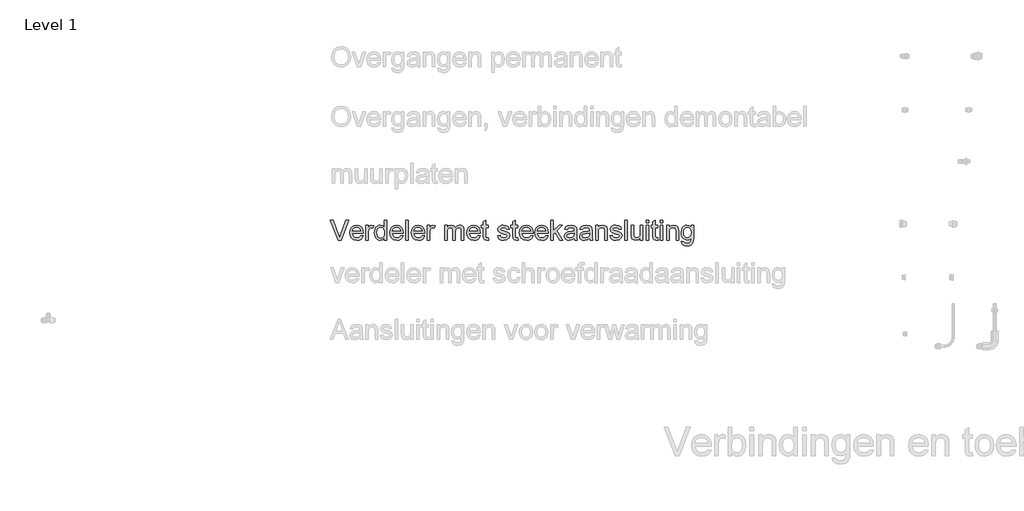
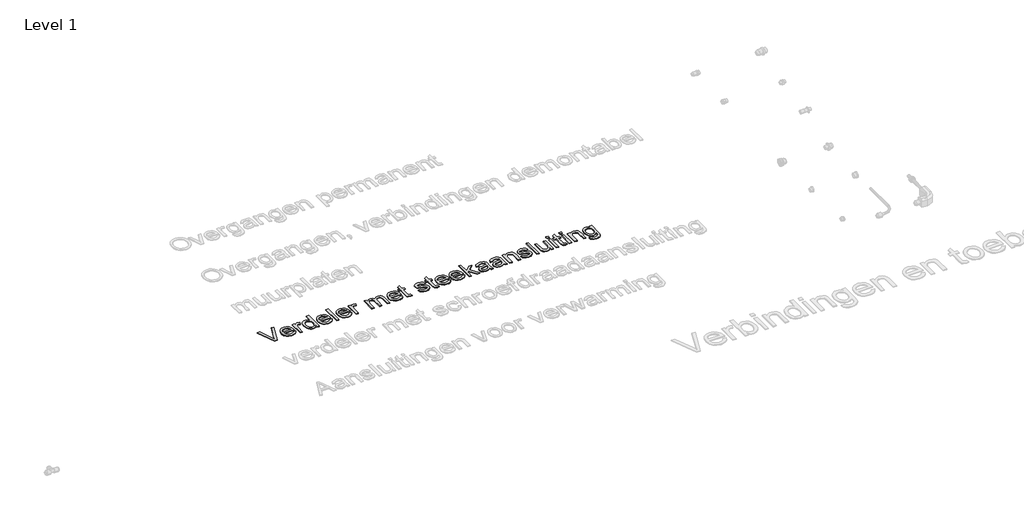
# One storey, part 6 of 9: 1 proxy.
"""IFC4 building model written with IfcOpenShell, lengths in millimetres."""

from ifc_helpers import new_model, si_unit, origin, origin_with_axes, place, context, project, spatial, polyline, outline, extrude, element, save

model = new_model("IFC4")

# Units and contexts
model_context = context("Model", 3, world=origin())
ifc_project = project(units=[si_unit("LENGTHUNIT", "METRE", prefix="MILLI")], contexts=[model_context])

# Site, building, storey
site = spatial("IfcSite", under=ifc_project)
building = spatial("IfcBuilding", under=site)
storey = spatial("IfcBuildingStorey", under=building, Name="Level 1", Elevation=0.0)

# Proxy
placement = place(None, origin())
element("IfcBuildingElementProxy", 1, Name="small", ObjectType="small", at=placement, inside=storey, context=model_context, shape_type="SweptSolid", body=[
    extrude(outline(polyline([(3504.737123, 4372.8496905), (3448.7700088, 4513.4885247), (3467.5859466, 4513.4885247), (3505.0461439, 4412.164013), (3512.6343232, 4389.3308039), (3520.1194955, 4412.164013), (3557.6826998, 4513.4885247), (3576.4986376, 4513.4885247), (3522.9006834, 4372.8496905), (3504.737123, 4372.8496905)])), origin_with_axes(), (0.0, 0.0, 1.0), 5.0),
    extrude(outline(polyline([(3662.9558115, 4403.6144355), (3680.1923093, 4401.4169537), (3673.9818481, 4388.429493), (3664.0717203, 4378.7210871), (3650.6851076, 4372.6694283), (3634.0451918, 4370.6522087), (3613.4180483, 4374.1329855), (3597.5463928, 4384.5753159), (3587.4259591, 4401.3010708), (3584.0524812, 4423.6321211), (3587.4602948, 4446.7142637), (3597.6837354, 4463.9765132), (3613.3407931, 4474.7407404), (3633.0494579, 4478.3288161), (3652.1443728, 4474.7493243), (3667.4022786, 4464.0108489), (3677.4068294, 4446.782935), (3680.7416797, 4423.7351281), (3680.6386728, 4418.996808), (3601.6323355, 4418.996808), (3604.6753327, 4405.837669), (3611.7441853, 4396.1635988), (3621.9461661, 4390.2149469), (3634.3885483, 4388.232063), (3651.6250461, 4391.9059778), (3662.9558115, 4403.6144355)]), holes=[polyline([(3601.6323355, 4436.5766622), (3663.1618254, 4436.5766622), (3656.1230166, 4452.5084052), (3645.8738242, 4458.6888227), (3632.9807866, 4460.7489619), (3621.1306944, 4459.1051425), (3611.3321574, 4454.1736843), (3604.5208223, 4446.48679), (3601.6323355, 4436.5766622)])]), origin_with_axes(), (0.0, 0.0, 1.0), 5.0),
    extrude(outline(polyline([(3698.321534, 4372.8496905), (3698.321534, 4476.1313344), (3713.7039065, 4476.1313344), (3713.7039065, 4460.8519688), (3724.6226441, 4474.9295865), (3735.610053, 4478.3288161), (3753.2585786, 4472.903783), (3747.387182, 4457.1437183), (3735.0263469, 4460.7489619), (3725.0861754, 4457.2810609), (3718.7512475, 4447.6670781), (3715.9013883, 4427.1343577), (3715.9013883, 4372.8496905), (3698.321534, 4372.8496905)])), origin_with_axes(), (0.0, 0.0, 1.0), 5.0),
    extrude(outline(polyline([(3827.9729593, 4372.8496905), (3827.9729593, 4389.4338108), (3816.3417569, 4375.3476092), (3800.2640874, 4370.6522087), (3788.8989863, 4372.3518235), (3778.4952835, 4377.450668), (3769.6881885, 4385.5925097), (3763.112911, 4396.4211162), (3757.6535422, 4424.3875055), (3762.6837153, 4452.3710626), (3768.9671398, 4463.4700624), (3777.7570669, 4471.6333638), (3788.3882435, 4476.6549531), (3800.1954161, 4478.3288161), (3816.4018443, 4473.5389926), (3827.9729593, 4461.0923184), (3827.9729593, 4513.4885247), (3845.5528136, 4513.4885247), (3845.5528136, 4372.8496905), (3827.9729593, 4372.8496905)]), holes=[polyline([(3775.2333965, 4424.4561768), (3777.2162804, 4408.5544775), (3783.1649323, 4397.2451719), (3791.8089329, 4390.4853402), (3801.8778631, 4388.232063), (3811.9425013, 4390.3823332), (3820.3676122, 4396.833144), (3826.0716225, 4407.7046701), (3827.9729593, 4423.1170863), (3826.0372869, 4439.967308), (3820.2302696, 4451.6500138), (3811.5905609, 4458.4742249), (3801.1568144, 4460.7489619), (3790.9848772, 4458.5643559), (3782.6498975, 4452.0105382), (3777.0875217, 4440.752736), (3775.2333965, 4424.4561768)])]), origin_with_axes(), (0.0, 0.0, 1.0), 5.0),
    extrude(outline(polyline([(3944.23348, 4403.6144355), (3961.4699777, 4401.4169537), (3955.2595165, 4388.429493), (3945.3493887, 4378.7210871), (3931.962776, 4372.6694283), (3915.3228602, 4370.6522087), (3894.6957168, 4374.1329855), (3878.8240612, 4384.5753159), (3868.7036275, 4401.3010708), (3865.3301496, 4423.6321211), (3868.7379632, 4446.7142637), (3878.9614038, 4463.9765132), (3894.6184615, 4474.7407404), (3914.3271263, 4478.3288161), (3933.4220412, 4474.7493243), (3948.679947, 4464.0108489), (3958.6844979, 4446.782935), (3962.0193481, 4423.7351281), (3961.9163412, 4418.996808), (3882.9100039, 4418.996808), (3885.9530011, 4405.837669), (3893.0218537, 4396.1635988), (3903.2238345, 4390.2149469), (3915.6662168, 4388.232063), (3932.9027145, 4391.9059778), (3944.23348, 4403.6144355)]), holes=[polyline([(3882.9100039, 4436.5766622), (3944.4394939, 4436.5766622), (3937.400685, 4452.5084052), (3927.1514926, 4458.6888227), (3914.258455, 4460.7489619), (3902.4083628, 4459.1051425), (3892.6098258, 4454.1736843), (3885.7984907, 4446.48679), (3882.9100039, 4436.5766622)])]), origin_with_axes(), (0.0, 0.0, 1.0), 5.0),
    extrude(outline(polyline([(3979.5992024, 4372.8496905), (3979.5992024, 4513.4885247), (3997.1790567, 4513.4885247), (3997.1790567, 4372.8496905), (3979.5992024, 4372.8496905)])), origin_with_axes(), (0.0, 0.0, 1.0), 5.0),
    extrude(outline(polyline([(4095.8597231, 4403.6144355), (4113.0962208, 4401.4169537), (4106.8857596, 4388.429493), (4096.9756318, 4378.7210871), (4083.5890191, 4372.6694283), (4066.9491034, 4370.6522087), (4046.3219599, 4374.1329855), (4030.4503043, 4384.5753159), (4020.3298707, 4401.3010708), (4016.9563928, 4423.6321211), (4020.3642063, 4446.7142637), (4030.587647, 4463.9765132), (4046.2447047, 4474.7407404), (4065.9533694, 4478.3288161), (4085.0482844, 4474.7493243), (4100.3061901, 4464.0108489), (4110.310741, 4446.782935), (4113.6455913, 4423.7351281), (4113.5425843, 4418.996808), (4034.536247, 4418.996808), (4037.5792443, 4405.837669), (4044.6480968, 4396.1635988), (4054.8500777, 4390.2149469), (4067.2924599, 4388.232063), (4084.5289576, 4391.9059778), (4095.8597231, 4403.6144355)]), holes=[polyline([(4034.536247, 4436.5766622), (4096.065737, 4436.5766622), (4089.0269282, 4452.5084052), (4078.7777358, 4458.6888227), (4065.8846981, 4460.7489619), (4054.0346059, 4459.1051425), (4044.236069, 4454.1736843), (4037.4247338, 4446.48679), (4034.536247, 4436.5766622)])]), origin_with_axes(), (0.0, 0.0, 1.0), 5.0),
    extrude(outline(polyline([(4131.2254456, 4372.8496905), (4131.2254456, 4476.1313344), (4146.607818, 4476.1313344), (4146.607818, 4460.8519688), (4157.5265557, 4474.9295865), (4168.5139646, 4478.3288161), (4186.1624902, 4472.903783), (4180.2910935, 4457.1437183), (4167.9302585, 4460.7489619), (4157.990087, 4457.2810609), (4151.655159, 4447.6670781), (4148.8052998, 4427.1343577), (4148.8052998, 4372.8496905), (4131.2254456, 4372.8496905)])), origin_with_axes(), (0.0, 0.0, 1.0), 5.0),
    extrude(outline(polyline([(4252.0869437, 4372.8496905), (4252.0869437, 4476.1313344), (4269.666798, 4476.1313344), (4269.666798, 4459.1351862), (4281.7529478, 4473.0582934), (4298.9551099, 4478.3288161), (4316.5692998, 4472.9552865), (4326.2519539, 4457.8991027), (4339.9690473, 4473.2213878), (4357.2913841, 4478.3288161), (4370.5063185, 4476.2042976), (4380.2791037, 4469.830742), (4386.3178867, 4459.0364712), (4388.3308143, 4443.6498067), (4388.3308143, 4372.8496905), (4370.7509601, 4372.8496905), (4370.7509601, 4436.0959631), (4369.1200166, 4450.7744547), (4363.2142843, 4458.0021096), (4353.1711058, 4460.7489619), (4343.6472541, 4458.9892596), (4335.8831046, 4453.710153), (4330.7198808, 4444.5511176), (4328.9988062, 4431.1516291), (4328.9988062, 4372.8496905), (4311.4189519, 4372.8496905), (4311.4189519, 4438.0530953), (4307.350177, 4455.0835791), (4301.9809393, 4459.3326162), (4294.0107759, 4460.7489619), (4280.9975634, 4456.97204), (4272.3449789, 4445.9159598), (4269.666798, 4424.9368759), (4269.666798, 4372.8496905), (4252.0869437, 4372.8496905)])), origin_with_axes(), (0.0, 0.0, 1.0), 5.0),
    extrude(outline(polyline([(4487.0114807, 4403.6144355), (4504.2479785, 4401.4169537), (4498.0375173, 4388.429493), (4488.1273894, 4378.7210871), (4474.7407768, 4372.6694283), (4458.100861, 4370.6522087), (4437.4737175, 4374.1329855), (4421.602062, 4384.5753159), (4411.4816283, 4401.3010708), (4408.1081504, 4423.6321211), (4411.515964, 4446.7142637), (4421.7394046, 4463.9765132), (4437.3964623, 4474.7407404), (4457.1051271, 4478.3288161), (4476.200042, 4474.7493243), (4491.4579478, 4464.0108489), (4501.4624986, 4446.782935), (4504.7973489, 4423.7351281), (4504.694342, 4418.996808), (4425.6880047, 4418.996808), (4428.7310019, 4405.837669), (4435.7998545, 4396.1635988), (4446.0018353, 4390.2149469), (4458.4442175, 4388.232063), (4475.6807153, 4391.9059778), (4487.0114807, 4403.6144355)]), holes=[polyline([(4425.6880047, 4436.5766622), (4487.2174946, 4436.5766622), (4480.1786858, 4452.5084052), (4469.9294934, 4458.6888227), (4457.0364558, 4460.7489619), (4445.1863636, 4459.1051425), (4435.3878266, 4454.1736843), (4428.5764915, 4446.48679), (4425.6880047, 4436.5766622)])]), origin_with_axes(), (0.0, 0.0, 1.0), 5.0),
    extrude(outline(polyline([(4559.7343935, 4387.5110143), (4561.9318753, 4372.3346557), (4548.7813203, 4370.6522087), (4534.0513252, 4373.5707392), (4526.7034955, 4381.2275898), (4524.574685, 4401.1766041), (4524.574685, 4458.5514801), (4511.3897943, 4458.5514801), (4511.3897943, 4476.1313344), (4524.574685, 4476.1313344), (4524.574685, 4501.2306966), (4542.1545393, 4511.5657281), (4542.1545393, 4476.1313344), (4559.7343935, 4476.1313344), (4559.7343935, 4458.5514801), (4542.1545393, 4458.5514801), (4542.1545393, 4401.6916389), (4543.0816019, 4392.6270265), (4546.0859715, 4389.416643), (4552.0775429, 4388.232063), (4559.7343935, 4387.5110143)])), origin_with_axes(), (0.0, 0.0, 1.0), 5.0),
    extrude(outline(polyline([(4625.6588471, 4403.6144355), (4643.2387013, 4405.8119172), (4646.0113053, 4398.2924093), (4651.3762511, 4392.7643692), (4670.0205106, 4388.232063), (4687.9437214, 4392.386677), (4693.7807824, 4402.1380024), (4687.9093857, 4410.0352026), (4669.8144967, 4415.0482079), (4643.3417083, 4423.6492889), (4631.7877611, 4433.6924674), (4627.8563289, 4447.873092), (4631.0152089, 4460.9721436), (4639.6334578, 4470.9809864), (4650.8097128, 4476.1828378), (4665.9345679, 4478.3288161), (4687.3256796, 4474.878083), (4700.9225982, 4465.5387854), (4706.9656731, 4449.7615529), (4689.3858188, 4447.5640712), (4682.7762056, 4457.2638931), (4667.307994, 4460.7489619), (4650.4835241, 4457.4184035), (4645.4361831, 4449.658546), (4647.530658, 4444.5425337), (4654.0887677, 4440.6626049), (4669.2307906, 4436.9200188), (4695.0340337, 4428.6451264), (4707.0171766, 4419.2714932), (4711.3606367, 4403.9921276), (4706.2617922, 4387.1676577), (4691.548965, 4374.9613331), (4669.780161, 4370.6522087), (4652.0543802, 4372.7295157), (4639.118423, 4378.9614367), (4630.4830063, 4389.2793004), (4625.6588471, 4403.6144355)])), origin_with_axes(), (0.0, 0.0, 1.0), 5.0),
    extrude(outline(polyline([(4768.4951631, 4387.5110143), (4770.6926448, 4372.3346557), (4757.5420898, 4370.6522087), (4742.8120947, 4373.5707392), (4735.464265, 4381.2275898), (4733.3354545, 4401.1766041), (4733.3354545, 4458.5514801), (4720.1505638, 4458.5514801), (4720.1505638, 4476.1313344), (4733.3354545, 4476.1313344), (4733.3354545, 4501.2306966), (4750.9153088, 4511.5657281), (4750.9153088, 4476.1313344), (4768.4951631, 4476.1313344), (4768.4951631, 4458.5514801), (4750.9153088, 4458.5514801), (4750.9153088, 4401.6916389), (4751.8423714, 4392.6270265), (4754.846741, 4389.416643), (4760.8383125, 4388.232063), (4768.4951631, 4387.5110143)])), origin_with_axes(), (0.0, 0.0, 1.0), 5.0),
    extrude(outline(polyline([(4858.3859023, 4403.6144355), (4875.6224001, 4401.4169537), (4869.4119388, 4388.429493), (4859.501811, 4378.7210871), (4846.1151984, 4372.6694283), (4829.4752826, 4370.6522087), (4808.8481391, 4374.1329855), (4792.9764836, 4384.5753159), (4782.8560499, 4401.3010708), (4779.482572, 4423.6321211), (4782.8903855, 4446.7142637), (4793.1138262, 4463.9765132), (4808.7708839, 4474.7407404), (4828.4795487, 4478.3288161), (4847.5744636, 4474.7493243), (4862.8323694, 4464.0108489), (4872.8369202, 4446.782935), (4876.1717705, 4423.7351281), (4876.0687635, 4418.996808), (4797.0624263, 4418.996808), (4800.1054235, 4405.837669), (4807.174276, 4396.1635988), (4817.3762569, 4390.2149469), (4829.8186391, 4388.232063), (4847.0551369, 4391.9059778), (4858.3859023, 4403.6144355)]), holes=[polyline([(4797.0624263, 4436.5766622), (4858.5919162, 4436.5766622), (4851.5531074, 4452.5084052), (4841.303915, 4458.6888227), (4828.4108773, 4460.7489619), (4816.5607851, 4459.1051425), (4806.7622482, 4454.1736843), (4799.9509131, 4446.48679), (4797.0624263, 4436.5766622)])]), origin_with_axes(), (0.0, 0.0, 1.0), 5.0),
    extrude(outline(polyline([(4966.0625098, 4403.6144355), (4983.2990075, 4401.4169537), (4977.0885463, 4388.429493), (4967.1784185, 4378.7210871), (4953.7918058, 4372.6694283), (4937.15189, 4370.6522087), (4916.5247466, 4374.1329855), (4900.653091, 4384.5753159), (4890.5326573, 4401.3010708), (4887.1591794, 4423.6321211), (4890.566993, 4446.7142637), (4900.7904336, 4463.9765132), (4916.4474913, 4474.7407404), (4936.1561561, 4478.3288161), (4955.2510711, 4474.7493243), (4970.5089768, 4464.0108489), (4980.5135277, 4446.782935), (4983.8483779, 4423.7351281), (4983.745371, 4418.996808), (4904.7390337, 4418.996808), (4907.7820309, 4405.837669), (4914.8508835, 4396.1635988), (4925.0528643, 4390.2149469), (4937.4952466, 4388.232063), (4954.7317443, 4391.9059778), (4966.0625098, 4403.6144355)]), holes=[polyline([(4904.7390337, 4436.5766622), (4966.2685237, 4436.5766622), (4959.2297148, 4452.5084052), (4948.9805224, 4458.6888227), (4936.0874848, 4460.7489619), (4924.2373926, 4459.1051425), (4914.4388556, 4454.1736843), (4907.6275205, 4446.48679), (4904.7390337, 4436.5766622)])]), origin_with_axes(), (0.0, 0.0, 1.0), 5.0),
    extrude(outline(polyline([(5001.4282322, 4372.8496905), (5001.4282322, 4513.4885247), (5019.0080865, 4513.4885247), (5019.0080865, 4437.9157527), (5058.425416, 4476.1313344), (5082.7350583, 4476.1313344), (5042.8370296, 4437.4350536), (5084.93254, 4372.8496905), (5064.3998196, 4372.8496905), (5030.235845, 4425.2115611), (5019.0080865, 4414.3271592), (5019.0080865, 4372.8496905), (5001.4282322, 4372.8496905)])), origin_with_axes(), (0.0, 0.0, 1.0), 5.0),
    extrude(outline(polyline([(5166.2393661, 4386.0345812), (5149.1917144, 4374.1201096), (5130.3586088, 4370.6522087), (5115.6672413, 4372.7380996), (5104.8300509, 4378.9957723), (5098.1474744, 4388.4981643), (5095.919949, 4400.3182128), (5099.2848429, 4414.2241522), (5108.1262736, 4424.3188342), (5120.4356051, 4430.0872238), (5135.6462993, 4432.7310691), (5166.1363591, 4438.774144), (5166.2393661, 4442.6884084), (5165.0290343, 4450.5341051), (5161.398039, 4455.6672852), (5153.2776571, 4459.4785427), (5141.9640595, 4460.7489619), (5124.1781913, 4457.3669001), (5115.697285, 4445.3665894), (5098.1174307, 4447.5640712), (5105.7227779, 4464.7318976), (5121.036479, 4474.7922439), (5144.2302126, 4478.3288161), (5165.5354852, 4475.2042717), (5177.5701315, 4467.358575), (5182.960829, 4455.4269357), (5183.8192203, 4440.0445632), (5183.8192203, 4418.1727523), (5184.7119473, 4387.631189), (5188.2141839, 4372.8496905), (5170.6343296, 4372.8496905), (5166.2393661, 4386.0345812)]), holes=[polyline([(5166.2393661, 4421.1942897), (5137.8781168, 4415.8035922), (5122.7532617, 4412.953733), (5115.9032989, 4408.3184199), (5113.4998032, 4401.5542963), (5118.7359903, 4392.0433204), (5134.101195, 4388.232063), (5151.8870632, 4392.4381804), (5163.3551712, 4402.6187015), (5166.1363591, 4416.2156201), (5166.2393661, 4421.1942897)])]), origin_with_axes(), (0.0, 0.0, 1.0), 5.0),
    extrude(outline(polyline([(5273.9159735, 4386.0345812), (5256.8683218, 4374.1201096), (5238.0352162, 4370.6522087), (5223.3438488, 4372.7380996), (5212.5066583, 4378.9957723), (5205.8240819, 4388.4981643), (5203.5965564, 4400.3182128), (5206.9614504, 4414.2241522), (5215.802881, 4424.3188342), (5228.1122126, 4430.0872238), (5243.3229068, 4432.7310691), (5273.8129665, 4438.774144), (5273.9159735, 4442.6884084), (5272.7056417, 4450.5341051), (5269.0746464, 4455.6672852), (5260.9542645, 4459.4785427), (5249.6406669, 4460.7489619), (5231.8547987, 4457.3669001), (5223.3738925, 4445.3665894), (5205.7940382, 4447.5640712), (5213.3993853, 4464.7318976), (5228.7130865, 4474.7922439), (5251.90682, 4478.3288161), (5273.2120926, 4475.2042717), (5285.246739, 4467.358575), (5290.6374365, 4455.4269357), (5291.4958278, 4440.0445632), (5291.4958278, 4418.1727523), (5292.3885548, 4387.631189), (5295.8907914, 4372.8496905), (5278.3109371, 4372.8496905), (5273.9159735, 4386.0345812)]), holes=[polyline([(5273.9159735, 4421.1942897), (5245.5547242, 4415.8035922), (5230.4298691, 4412.953733), (5223.5799064, 4408.3184199), (5221.1764107, 4401.5542963), (5226.4125977, 4392.0433204), (5241.7778024, 4388.232063), (5259.5636706, 4392.4381804), (5271.0317787, 4402.6187015), (5273.8129665, 4416.2156201), (5273.9159735, 4421.1942897)])]), origin_with_axes(), (0.0, 0.0, 1.0), 5.0),
    extrude(outline(polyline([(5315.6681274, 4372.8496905), (5315.6681274, 4476.1313344), (5333.2479817, 4476.1313344), (5333.2479817, 4461.7103601), (5346.6903898, 4474.1742021), (5365.0427963, 4478.3288161), (5381.6440844, 4474.98109), (5392.9748499, 4466.1911628), (5398.2453726, 4453.2637895), (5399.1724352, 4436.2676414), (5399.1724352, 4372.8496905), (5381.5925809, 4372.8496905), (5381.5925809, 4433.8984813), (5379.5667774, 4449.4525321), (5372.4077938, 4457.6759209), (5360.3388118, 4460.7489619), (5350.0424079, 4459.0235953), (5341.2653566, 4453.8474956), (5335.2523254, 4443.8472367), (5333.2479817, 4427.6493925), (5333.2479817, 4372.8496905), (5315.6681274, 4372.8496905)])), origin_with_axes(), (0.0, 0.0, 1.0), 5.0),
    extrude(outline(polyline([(5416.7522895, 4403.6144355), (5434.3321438, 4405.8119172), (5437.1047477, 4398.2924093), (5442.4696935, 4392.7643692), (5461.113953, 4388.232063), (5479.0371638, 4392.386677), (5484.8742248, 4402.1380024), (5479.0028282, 4410.0352026), (5460.9079391, 4415.0482079), (5434.4351507, 4423.6492889), (5422.8812035, 4433.6924674), (5418.9497713, 4447.873092), (5422.1086513, 4460.9721436), (5430.7269002, 4470.9809864), (5441.9031552, 4476.1828378), (5457.0280103, 4478.3288161), (5478.4191221, 4474.878083), (5492.0160406, 4465.5387854), (5498.0591155, 4449.7615529), (5480.4792612, 4447.5640712), (5473.8696481, 4457.2638931), (5458.4014364, 4460.7489619), (5441.5769665, 4457.4184035), (5436.5296256, 4449.658546), (5438.6241004, 4444.5425337), (5445.1822101, 4440.6626049), (5460.324233, 4436.9200188), (5486.1274761, 4428.6451264), (5498.110619, 4419.2714932), (5502.4540791, 4403.9921276), (5497.3552346, 4387.1676577), (5482.6424074, 4374.9613331), (5460.8736035, 4370.6522087), (5443.1478227, 4372.7295157), (5430.2118654, 4378.9614367), (5421.5764487, 4389.2793004), (5416.7522895, 4403.6144355)])), origin_with_axes(), (0.0, 0.0, 1.0), 5.0),
    extrude(outline(polyline([(5522.2314152, 4372.8496905), (5522.2314152, 4513.4885247), (5539.8112694, 4513.4885247), (5539.8112694, 4372.8496905), (5522.2314152, 4372.8496905)])), origin_with_axes(), (0.0, 0.0, 1.0), 5.0),
    extrude(outline(polyline([(5632.1055044, 4372.8496905), (5632.1055044, 4390.601223), (5618.3369076, 4375.6394623), (5600.3793611, 4370.6522087), (5583.8467443, 4374.1544453), (5572.4473075, 4382.9443724), (5567.2111204, 4395.8889136), (5566.1810508, 4412.2326843), (5566.1810508, 4476.1313344), (5583.7609051, 4476.1313344), (5583.7609051, 4420.5075767), (5584.8253104, 4402.5843659), (5591.7782801, 4392.0604883), (5604.8773316, 4388.232063), (5619.5558233, 4392.1463274), (5629.2556452, 4402.8075476), (5632.1055044, 4422.3960376), (5632.1055044, 4476.1313344), (5649.6853587, 4476.1313344), (5649.6853587, 4372.8496905), (5632.1055044, 4372.8496905)])), origin_with_axes(), (0.0, 0.0, 1.0), 5.0),
    extrude(outline(polyline([(5673.8576583, 4495.9086704), (5673.8576583, 4513.4885247), (5691.4375126, 4513.4885247), (5691.4375126, 4495.9086704), (5673.8576583, 4495.9086704)])), origin_with_axes(), (0.0, 0.0, 1.0), 5.0),
    extrude(outline(polyline([(5673.8576583, 4372.8496905), (5673.8576583, 4476.1313344), (5691.4375126, 4476.1313344), (5691.4375126, 4372.8496905), (5673.8576583, 4372.8496905)])), origin_with_axes(), (0.0, 0.0, 1.0), 5.0),
    extrude(outline(polyline([(5755.1644843, 4387.5110143), (5757.3619661, 4372.3346557), (5744.211411, 4370.6522087), (5729.481416, 4373.5707392), (5722.1335862, 4381.2275898), (5720.0047758, 4401.1766041), (5720.0047758, 4458.5514801), (5706.8198851, 4458.5514801), (5706.8198851, 4476.1313344), (5720.0047758, 4476.1313344), (5720.0047758, 4501.2306966), (5737.58463, 4511.5657281), (5737.58463, 4476.1313344), (5755.1644843, 4476.1313344), (5755.1644843, 4458.5514801), (5737.58463, 4458.5514801), (5737.58463, 4401.6916389), (5738.5116927, 4392.6270265), (5741.5160623, 4389.416643), (5747.5076337, 4388.232063), (5755.1644843, 4387.5110143)])), origin_with_axes(), (0.0, 0.0, 1.0), 5.0),
    extrude(outline(polyline([(5772.7443386, 4495.9086704), (5772.7443386, 4513.4885247), (5790.3241929, 4513.4885247), (5790.3241929, 4495.9086704), (5772.7443386, 4495.9086704)])), origin_with_axes(), (0.0, 0.0, 1.0), 5.0),
    extrude(outline(polyline([(5772.7443386, 4372.8496905), (5772.7443386, 4476.1313344), (5790.3241929, 4476.1313344), (5790.3241929, 4372.8496905), (5772.7443386, 4372.8496905)])), origin_with_axes(), (0.0, 0.0, 1.0), 5.0),
    extrude(outline(polyline([(5816.6939743, 4372.8496905), (5816.6939743, 4476.1313344), (5834.2738286, 4476.1313344), (5834.2738286, 4461.7103601), (5847.7162367, 4474.1742021), (5866.0686431, 4478.3288161), (5882.6699313, 4474.98109), (5894.0006967, 4466.1911628), (5899.2712195, 4453.2637895), (5900.1982821, 4436.2676414), (5900.1982821, 4372.8496905), (5882.6184278, 4372.8496905), (5882.6184278, 4433.8984813), (5880.5926243, 4449.4525321), (5873.4336407, 4457.6759209), (5861.3646587, 4460.7489619), (5851.0682548, 4459.0235953), (5842.2912035, 4453.8474956), (5836.2781723, 4443.8472367), (5834.2738286, 4427.6493925), (5834.2738286, 4372.8496905), (5816.6939743, 4372.8496905)])), origin_with_axes(), (0.0, 0.0, 1.0), 5.0),
    extrude(outline(polyline([(5919.9756182, 4364.0597633), (5937.5554724, 4361.8622816), (5943.2551908, 4352.5916553), (5960.3200103, 4348.6773908), (5978.3118924, 4353.1066901), (5986.8958056, 4365.5361964), (5988.0975535, 4386.0345812), (5975.7195506, 4376.1459132), (5960.6290312, 4372.8496905), (5942.5040984, 4376.6866997), (5928.988727, 4388.1977273), (5920.580784, 4405.0737007), (5917.7781364, 4425.0055472), (5922.8083095, 4452.2508878), (5928.9629753, 4463.31126), (5937.3666263, 4471.5303569), (5947.7317016, 4476.6292013), (5959.7706398, 4478.3288161), (5975.4534493, 4474.483223), (5988.0975535, 4462.9464436), (5988.0975535, 4476.1313344), (6005.6774078, 4476.1313344), (6005.6774078, 4386.9616438), (6004.4756599, 4366.373128), (6000.8704163, 4352.814837), (5994.6599551, 4343.8231879), (5985.6425543, 4336.9345976), (5974.0156438, 4332.5568018), (5959.9766538, 4331.0975366), (5943.6200071, 4333.1533838), (5930.7398453, 4339.3209254), (5922.4778289, 4349.6173293), (5919.9756182, 4364.0597633)]), holes=[polyline([(5935.3579906, 4426.2072951), (5937.2335757, 4410.0824141), (5942.8603308, 4398.9962901), (5951.3197773, 4392.5712311), (5961.6934364, 4390.4295448), (5971.9898403, 4392.5583552), (5980.4922064, 4398.9447867), (5986.1962167, 4409.889276), (5988.0975535, 4425.6922603), (5986.1404213, 4440.9329982), (5980.2690246, 4451.9075312), (5971.6421918, 4458.5386042), (5961.4187512, 4460.7489619), (5951.3798647, 4458.5729399), (5942.9633378, 4452.0448739), (5937.2593274, 4441.2334352), (5935.3579906, 4426.2072951)])]), origin_with_axes(), (0.0, 0.0, 1.0), 5.0),
])

save(model, "model.ifc")
